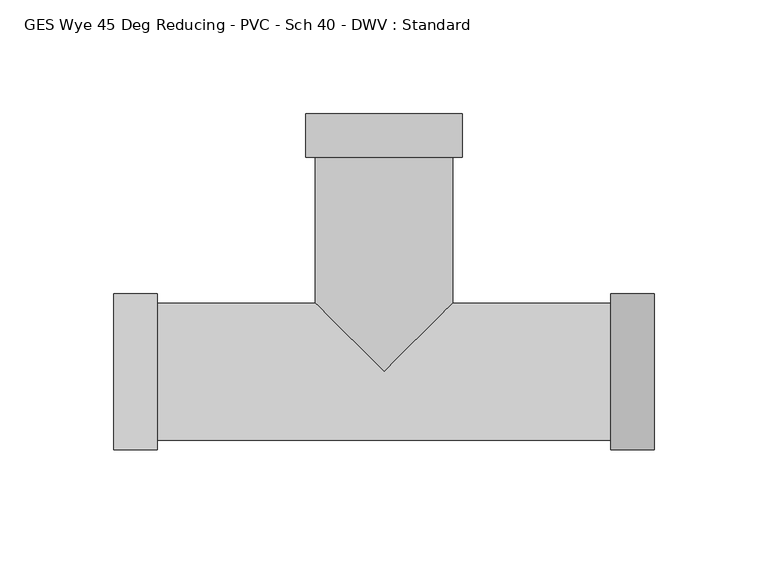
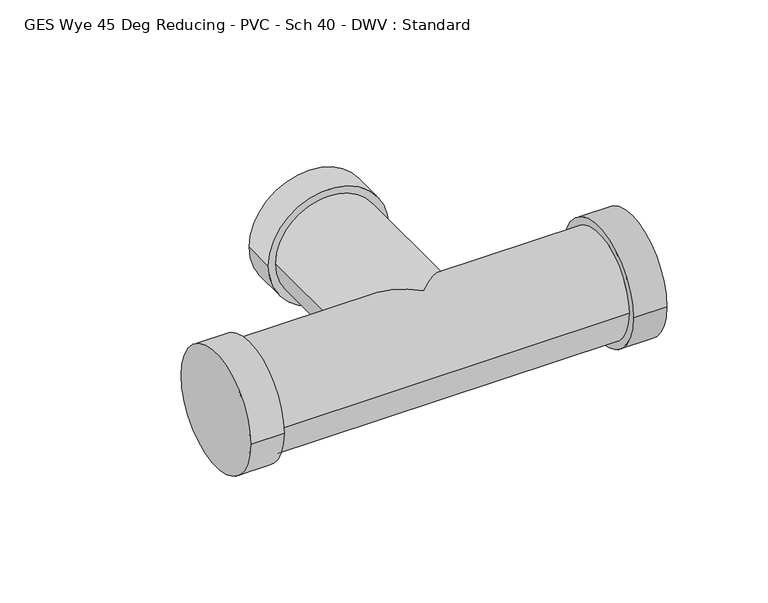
"""IFC4 building model written with IfcOpenShell, lengths in millimetres: pipe fitting geometry, GES Wye 45 Deg Reducing - PVC - Sch 40 - DWV : Standard."""

from ifc_helpers import new_model, si_unit, frame, origin, place, context, project, spatial, circle_curve, ellipse_curve, source, transform, mapped, element, save
from ifc_brep_helpers import plane_surface, cylinder_surface, advanced_brep


def ges_wye_45_deg_reducing_pvc_sch_40_dwv_standard_a2c526eb(model_context):
    return source(origin(), model_context, "Body", "AdvancedBrep", [
        advanced_brep(
        [(-99.5759375, -34.3154, 0.0), (-99.5759375, 34.3154, 0.0), (-99.5759375, -30.1625, 0.0), (-99.5759375, 30.1625, 0.0), (-118.6259375, -34.3154, 0.0), (-118.6259375, 34.3154, 0.0), (99.5759375, 34.3154, 0.0), (99.5759375, -34.3154, 0.0), (99.5759375, 30.1625, 0.0), (99.5759375, -30.1625, 0.0), (118.6259375, 34.3154, 0.0), (118.6259375, -34.3154, 0.0), (-30.1625, 30.1625, 0.0), (0.0, 0.0, -30.1625), (30.1625, 30.1625, 0.0), (0.0, 0.0, 30.1625), (30.1625, 94.1982813, 0.0), (-30.1625, 94.1982813, 0.0), (-34.3154, 94.1982813, 0.0), (34.3154, 94.1982813, 0.0), (-34.3154, 113.2482813, 0.0), (34.3154, 113.2482813, 0.0)],
        [
            (0, 1, circle_curve(frame((-99.5759375, 0.0, 0.0), z_axis=(1.0, 0.0, 0.0), x_axis=(0.0, 1.0, 0.0)), 34.3154)),
            (1, 0, circle_curve(frame((-99.5759375, 0.0, 0.0), z_axis=(1.0, 0.0, 0.0), x_axis=(0.0, 1.0, 0.0)), 34.3154)),
            (2, 3, circle_curve(frame((-99.5759375, 0.0, 0.0), z_axis=(-1.0, 0.0, 0.0), x_axis=(0.0, 0.0, 1.0)), 30.1625)),
            (3, 2, circle_curve(frame((-99.5759375, 0.0, 0.0), z_axis=(-1.0, 0.0, 0.0), x_axis=(0.0, 0.0, -1.0)), 30.1625)),
            (4, 5, circle_curve(frame((-118.6259375, 0.0, 0.0), z_axis=(-1.0, 0.0, 0.0), x_axis=(0.0, 1.0, 0.0)), 34.3154)),
            (5, 4, circle_curve(frame((-118.6259375, 0.0, 0.0), z_axis=(-1.0, 0.0, 0.0), x_axis=(0.0, 1.0, 0.0)), 34.3154)),
            (1, 5),
            (4, 0),
            (6, 7, circle_curve(frame((99.5759375, 0.0, 0.0), z_axis=(-1.0, 0.0, 0.0), x_axis=(0.0, -1.0, 0.0)), 34.3154)),
            (7, 6, circle_curve(frame((99.5759375, 0.0, 0.0), z_axis=(-1.0, 0.0, 0.0), x_axis=(0.0, -1.0, 0.0)), 34.3154)),
            (8, 9, circle_curve(frame((99.5759375, 0.0, 0.0), z_axis=(1.0, 0.0, 0.0), x_axis=(0.0, 0.0, 1.0)), 30.1625)),
            (9, 8, circle_curve(frame((99.5759375, 0.0, 0.0), z_axis=(1.0, 0.0, 0.0), x_axis=(0.0, 0.0, -1.0)), 30.1625)),
            (10, 11, circle_curve(frame((118.6259375, 0.0, 0.0), z_axis=(1.0, 0.0, 0.0), x_axis=(0.0, -1.0, 0.0)), 34.3154)),
            (11, 10, circle_curve(frame((118.6259375, 0.0, 0.0), z_axis=(1.0, 0.0, 0.0), x_axis=(0.0, -1.0, 0.0)), 34.3154)),
            (7, 11),
            (10, 6),
            (3, 12),
            (12, 13, ellipse_curve(frame((0.0, 0.0, 0.0), z_axis=(-0.7071067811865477, -0.7071067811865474, 0.0), x_axis=(0.7071067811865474, -0.7071067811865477, 0.0)), 42.6562166, 30.1625)),
            (13, 14, ellipse_curve(frame((0.0, 0.0, 0.0), z_axis=(0.7071067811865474, -0.7071067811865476, 0.0), x_axis=(0.7071067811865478, 0.7071067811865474, 0.0)), 42.6562166, 30.1625)),
            (14, 8),
            (9, 2),
            (14, 15, ellipse_curve(frame((0.0, 0.0, 0.0), z_axis=(0.7071067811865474, -0.7071067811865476, 0.0), x_axis=(0.7071067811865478, 0.7071067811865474, 0.0)), 42.6562166, 30.1625)),
            (15, 12, ellipse_curve(frame((0.0, 0.0, 0.0), z_axis=(-0.7071067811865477, -0.7071067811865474, 0.0), x_axis=(0.7071067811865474, -0.7071067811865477, 0.0)), 42.6562166, 30.1625)),
            (14, 16),
            (16, 17, circle_curve(frame((0.0, 94.1982813, 0.0), z_axis=(0.0, -1.0, 0.0), x_axis=(1.0, 0.0, 0.0)), 30.1625)),
            (17, 12),
            (17, 16, circle_curve(frame((0.0, 94.1982813, 0.0), z_axis=(0.0, -1.0, 0.0), x_axis=(1.0, 0.0, 0.0)), 30.1625)),
            (18, 19, circle_curve(frame((0.0, 94.1982813, 0.0), z_axis=(0.0, -1.0, 0.0), x_axis=(1.0, 0.0, 0.0)), 34.3154)),
            (19, 18, circle_curve(frame((0.0, 94.1982813, 0.0), z_axis=(0.0, -1.0, 0.0), x_axis=(1.0, 0.0, 0.0)), 34.3154)),
            (20, 21, circle_curve(frame((0.0, 113.2482813, 0.0), z_axis=(0.0, 1.0, 0.0), x_axis=(1.0, 0.0, 0.0)), 34.3154)),
            (21, 20, circle_curve(frame((0.0, 113.2482813, 0.0), z_axis=(0.0, 1.0, 0.0), x_axis=(1.0, 0.0, 0.0)), 34.3154)),
            (19, 21),
            (20, 18),
        ],
        [
            plane_surface(frame((-99.5759375, 0.0, 0.0), z_axis=(1.0, 0.0, 0.0), x_axis=(0.0, 0.0, 1.0))),
            plane_surface(frame((-118.6259375, 0.0, 0.0), z_axis=(-1.0, 0.0, 0.0), x_axis=(0.0, 0.0, 1.0))),
            cylinder_surface(frame((-99.5759375, 0.0, 0.0), z_axis=(1.0, 0.0, 0.0), x_axis=(0.0, 1.0, 0.0)), 34.3154),
            plane_surface(frame((99.5759375, 0.0, 0.0), z_axis=(-1.0, 0.0, 0.0), x_axis=(0.0, 0.0, 1.0))),
            plane_surface(frame((118.6259375, 0.0, 0.0), z_axis=(1.0, 0.0, 0.0), x_axis=(0.0, 0.0, 1.0))),
            cylinder_surface(frame((99.5759375, 0.0, 0.0), z_axis=(-1.0, 0.0, 0.0), x_axis=(0.0, -1.0, 0.0)), 34.3154),
            cylinder_surface(frame((-99.5759375, 0.0, 0.0), z_axis=(1.0, 0.0, 0.0), x_axis=(0.0, 0.0, -1.0)), 30.1625),
            cylinder_surface(frame((-99.5759375, 0.0, 0.0), z_axis=(1.0, 0.0, 0.0), x_axis=(0.0, 0.0, 1.0)), 30.1625),
            cylinder_surface(frame((0.0, 0.0, 0.0), z_axis=(0.0, -1.0, 0.0), x_axis=(1.0, 0.0, 0.0)), 30.1625),
            plane_surface(frame((0.0, 94.1982813, 0.0), z_axis=(0.0, -1.0, 0.0), x_axis=(0.0, 0.0, 1.0))),
            plane_surface(frame((0.0, 113.2482813, 0.0), z_axis=(0.0, 1.0, 0.0), x_axis=(0.0, 0.0, 1.0))),
            cylinder_surface(frame((0.0, 94.1982813, 0.0), z_axis=(0.0, -1.0, 0.0), x_axis=(1.0, 0.0, 0.0)), 34.3154),
        ],
        [
            (0, [[1, 2], [3, 4]]),
            (1, [[5, 6]]),
            (2, [[7, -5, 8, -2]]),
            (2, [[-8, -6, -7, -1]]),
            (3, [[9, 10], [11, 12]]),
            (4, [[13, 14]]),
            (5, [[15, -13, 16, -10]]),
            (5, [[-16, -14, -15, -9]]),
            (6, [[-4, 17, 18, 19, 20, -12, 21]]),
            (7, [[-11, -20, 22, 23, -17, -3, -21]]),
            (8, [[-23, -22, 24, 25, 26]]),
            (8, [[27, -24, -19, -18, -26]]),
            (9, [[28, 29], [-27, -25]]),
            (10, [[30, 31]]),
            (11, [[32, -30, 33, -29]]),
            (11, [[-33, -31, -32, -28]]),
        ],
    ),
    ])


if __name__ == "__main__":
    model = new_model("IFC4")
    model_context = context("Model", 3, world=origin())
    ifc_project = project(units=[si_unit("LENGTHUNIT", "METRE", prefix="MILLI")], contexts=[model_context])
    site = spatial("IfcSite", under=ifc_project)
    building = spatial("IfcBuilding", under=site)
    placement = place(None, origin())
    ges_wye_45_deg_reducing_pvc_sch_40_dwv_standard_shape = ges_wye_45_deg_reducing_pvc_sch_40_dwv_standard_a2c526eb(model_context)
    element("IfcPipeFitting", 1, ObjectType="GES Wye 45 Deg Reducing - PVC - Sch 40 - DWV : Standard", at=placement, inside=building, context=model_context, shape_type="MappedRepresentation", body=[
        mapped(ges_wye_45_deg_reducing_pvc_sch_40_dwv_standard_shape, transform((0.0, 0.0, 0.0), x_axis=(1.0, 0.0, 0.0), y_axis=(0.0, 1.0, 0.0), z_axis=(0.0, 0.0, 1.0))),
    ])
    save(model, "model.ifc")
